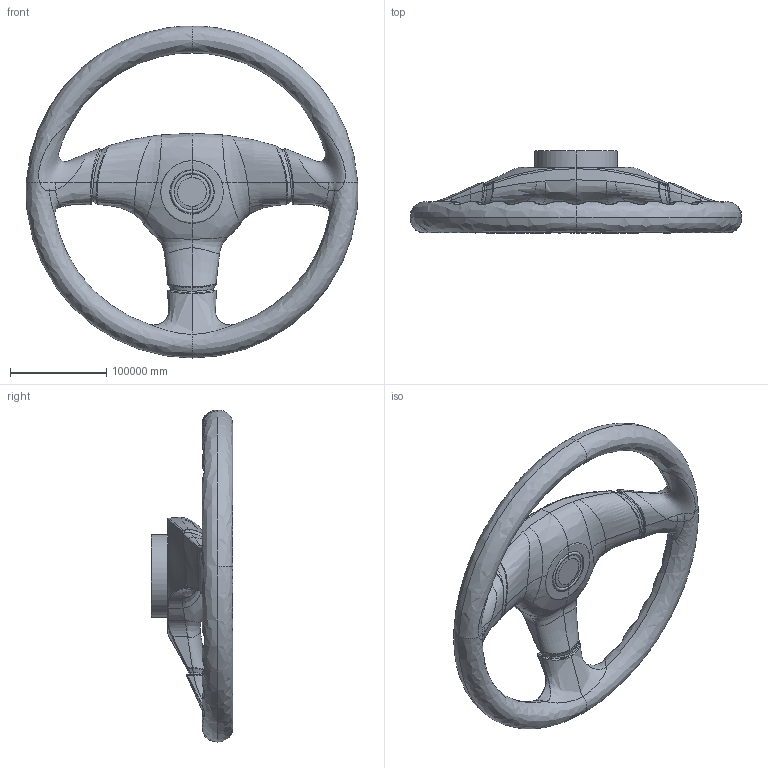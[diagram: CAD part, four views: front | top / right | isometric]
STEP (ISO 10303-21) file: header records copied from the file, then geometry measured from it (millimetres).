
FILE_DESCRIPTION(/* description */ (''),/* implementation_level */ '2;1');
FILE_NAME(/* name */ 'VOL.V60 - Antigua - RISALVATO',/* time_stamp */ '2020-10-22T17:06:37+02:00',/* author */ (''),/* organization */ (''),/* preprocessor_version */ 'ST-DEVELOPER v10',/* originating_system */ '',/* authorisation */ '');
FILE_SCHEMA (('AUTOMOTIVE_DESIGN'));
Length unit declared in the file: metre
Products named in the file (1): 1
Bounding box: 344881.26 x 85029.84 x 345000 mm (x, y, z)
Surface area: 175599214714.9 mm2 (no closed solid volume)
Topology: 0 solids, 259 shells, 281 faces, 1161 edges, 1109 vertices
Faces by surface type: bspline 272, plane 9
Entity records: 64344 total; most frequent: CARTESIAN_POINT 56483, ORIENTED_EDGE 1197, EDGE_CURVE 1153, VERTEX_POINT 1109, B_SPLINE_CURVE_WITH_KNOTS 756, EDGE_LOOP 297, ADVANCED_FACE 281, FACE_OUTER_BOUND 281
